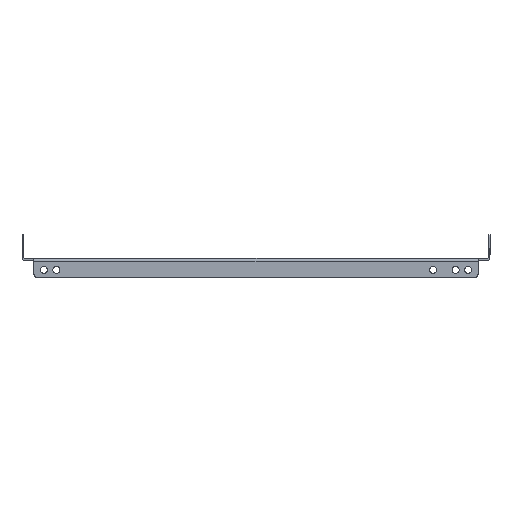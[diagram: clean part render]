
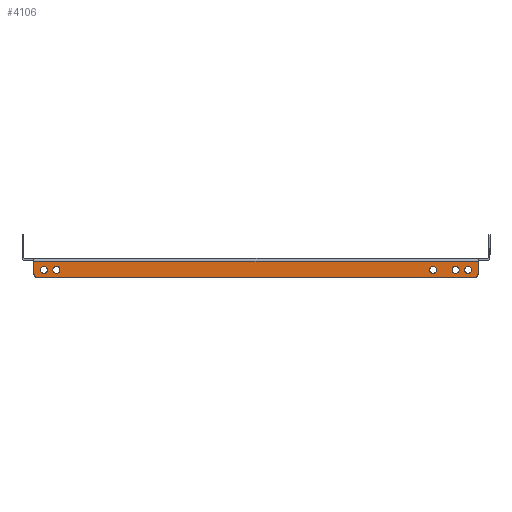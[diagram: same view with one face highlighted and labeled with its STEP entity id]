
A CAD part, left-side view. The second image highlights one B-rep face of the part: STEP entity #4106.
In plain terms, the highlighted planar face has unit normal (-1, 0, 0).
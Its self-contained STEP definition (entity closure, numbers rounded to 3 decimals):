
#5 = EDGE_CURVE ( 'NONE', #2773, #1411, #2415, .T. ) ;
#17 = ORIENTED_EDGE ( 'NONE', *, *, #5, .T. ) ;
#51 = CARTESIAN_POINT ( 'NONE',  ( -150., -200., -6. ) ) ;
#60 = EDGE_CURVE ( 'NONE', #3836, #2238, #2122, .T. ) ;
#101 = AXIS2_PLACEMENT_3D ( 'NONE', #1662, #2715, #1289 ) ;
#121 = FACE_BOUND ( 'NONE', #1444, .T. ) ;
#141 = DIRECTION ( 'NONE',  ( 0., 0., 1. ) ) ;
#290 = AXIS2_PLACEMENT_3D ( 'NONE', #4266, #3266, #141 ) ;
#293 = VERTEX_POINT ( 'NONE', #1516 ) ;
#294 = VERTEX_POINT ( 'NONE', #4250 ) ;
#348 = AXIS2_PLACEMENT_3D ( 'NONE', #3004, #2265, #2650 ) ;
#367 = DIRECTION ( 'NONE',  ( -1., 0., 0. ) ) ;
#369 = AXIS2_PLACEMENT_3D ( 'NONE', #4339, #1942, #3657 ) ;
#388 = EDGE_CURVE ( 'NONE', #1134, #2204, #3179, .T. ) ;
#403 = ORIENTED_EDGE ( 'NONE', *, *, #490, .F. ) ;
#413 = CIRCLE ( 'NONE', #855, 3.5 ) ;
#490 = EDGE_CURVE ( 'NONE', #694, #3167, #2407, .T. ) ;
#502 = FACE_OUTER_BOUND ( 'NONE', #1827, .T. ) ;
#584 = LINE ( 'NONE', #1212, #1025 ) ;
#607 = EDGE_CURVE ( 'NONE', #2238, #3836, #3037, .T. ) ;
#646 = AXIS2_PLACEMENT_3D ( 'NONE', #2390, #2367, #2667 ) ;
#658 = VERTEX_POINT ( 'NONE', #4263 ) ;
#674 = ORIENTED_EDGE ( 'NONE', *, *, #3908, .T. ) ;
#694 = VERTEX_POINT ( 'NONE', #1111 ) ;
#712 = LINE ( 'NONE', #3412, #1079 ) ;
#734 = DIRECTION ( 'NONE',  ( -1., 0., 0. ) ) ;
#834 = PLANE ( 'NONE',  #290 ) ;
#855 = AXIS2_PLACEMENT_3D ( 'NONE', #4347, #4012, #4054 ) ;
#892 = CARTESIAN_POINT ( 'NONE',  ( -150., -177.5, -13. ) ) ;
#935 = VECTOR ( 'NONE', #2398, 1000. ) ;
#958 = CARTESIAN_POINT ( 'NONE',  ( -150., -177.5, -6. ) ) ;
#1008 = VECTOR ( 'NONE', #2051, 1000. ) ;
#1025 = VECTOR ( 'NONE', #1949, 1000. ) ;
#1079 = VECTOR ( 'NONE', #1717, 1000. ) ;
#1111 = CARTESIAN_POINT ( 'NONE',  ( -150., -222.5, -0.6 ) ) ;
#1115 = EDGE_LOOP ( 'NONE', ( #4482, #1900 ) ) ;
#1134 = VERTEX_POINT ( 'NONE', #4368 ) ;
#1165 = EDGE_LOOP ( 'NONE', ( #3909, #1939 ) ) ;
#1190 = EDGE_CURVE ( 'NONE', #694, #658, #584, .T. ) ;
#1212 = CARTESIAN_POINT ( 'NONE',  ( -150., 222.5, -0.6 ) ) ;
#1229 = AXIS2_PLACEMENT_3D ( 'NONE', #3950, #3926, #4239 ) ;
#1247 = EDGE_CURVE ( 'NONE', #294, #293, #413, .T. ) ;
#1289 = DIRECTION ( 'NONE',  ( 0., 0., -1. ) ) ;
#1338 = DIRECTION ( 'NONE',  ( 0., 0., -1. ) ) ;
#1411 = VERTEX_POINT ( 'NONE', #958 ) ;
#1427 = EDGE_CURVE ( 'NONE', #3531, #3167, #2593, .T. ) ;
#1444 = EDGE_LOOP ( 'NONE', ( #17, #674 ) ) ;
#1477 = ORIENTED_EDGE ( 'NONE', *, *, #1427, .T. ) ;
#1481 = AXIS2_PLACEMENT_3D ( 'NONE', #2888, #734, #3501 ) ;
#1490 = FACE_BOUND ( 'NONE', #1165, .T. ) ;
#1509 = CIRCLE ( 'NONE', #3032, 3.5 ) ;
#1516 = CARTESIAN_POINT ( 'NONE',  ( -150., -212.5, -6. ) ) ;
#1563 = DIRECTION ( 'NONE',  ( 0., 0., 1. ) ) ;
#1564 = CARTESIAN_POINT ( 'NONE',  ( -150., 212.5, -13. ) ) ;
#1662 = CARTESIAN_POINT ( 'NONE',  ( -150., -177.5, -9.5 ) ) ;
#1702 = CARTESIAN_POINT ( 'NONE',  ( -150., 219.5, -17. ) ) ;
#1717 = DIRECTION ( 'NONE',  ( 0., 1., 0. ) ) ;
#1735 = AXIS2_PLACEMENT_3D ( 'NONE', #3992, #3646, #4056 ) ;
#1736 = VERTEX_POINT ( 'NONE', #3019 ) ;
#1752 = CIRCLE ( 'NONE', #369, 3.5 ) ;
#1798 = EDGE_CURVE ( 'NONE', #1736, #2830, #3982, .T. ) ;
#1827 = EDGE_LOOP ( 'NONE', ( #1982, #1477, #403, #3554, #4027, #2579 ) ) ;
#1842 = CARTESIAN_POINT ( 'NONE',  ( -150., -200., -9.5 ) ) ;
#1892 = AXIS2_PLACEMENT_3D ( 'NONE', #1842, #2138, #2877 ) ;
#1900 = ORIENTED_EDGE ( 'NONE', *, *, #60, .F. ) ;
#1912 = CARTESIAN_POINT ( 'NONE',  ( -150., -219.5, -17. ) ) ;
#1929 = CARTESIAN_POINT ( 'NONE',  ( -150., 200., -6. ) ) ;
#1939 = ORIENTED_EDGE ( 'NONE', *, *, #1247, .F. ) ;
#1942 = DIRECTION ( 'NONE',  ( -1., 0., 0. ) ) ;
#1949 = DIRECTION ( 'NONE',  ( 0., 1., 0. ) ) ;
#1982 = ORIENTED_EDGE ( 'NONE', *, *, #2585, .F. ) ;
#2051 = DIRECTION ( 'NONE',  ( 0., 0., -1. ) ) ;
#2069 = ORIENTED_EDGE ( 'NONE', *, *, #1798, .F. ) ;
#2122 = CIRCLE ( 'NONE', #2705, 3.5 ) ;
#2138 = DIRECTION ( 'NONE',  ( -1., 0., 0. ) ) ;
#2164 = CARTESIAN_POINT ( 'NONE',  ( -150., -222.5, -14. ) ) ;
#2204 = VERTEX_POINT ( 'NONE', #1702 ) ;
#2238 = VERTEX_POINT ( 'NONE', #51 ) ;
#2254 = FACE_BOUND ( 'NONE', #1115, .T. ) ;
#2265 = DIRECTION ( 'NONE',  ( -1., 0., 0. ) ) ;
#2351 = EDGE_CURVE ( 'NONE', #2830, #1736, #3989, .T. ) ;
#2367 = DIRECTION ( 'NONE',  ( -1., 0., 0. ) ) ;
#2390 = CARTESIAN_POINT ( 'NONE',  ( -150., 200., -9.5 ) ) ;
#2398 = DIRECTION ( 'NONE',  ( 0., 0., 1. ) ) ;
#2407 = LINE ( 'NONE', #3834, #1008 ) ;
#2409 = EDGE_CURVE ( 'NONE', #293, #294, #3169, .T. ) ;
#2415 = CIRCLE ( 'NONE', #101, 3.5 ) ;
#2433 = VERTEX_POINT ( 'NONE', #2610 ) ;
#2447 = EDGE_CURVE ( 'NONE', #3211, #2433, #3173, .T. ) ;
#2508 = DIRECTION ( 'NONE',  ( 1., 0., 0. ) ) ;
#2558 = EDGE_CURVE ( 'NONE', #1134, #658, #4458, .T. ) ;
#2579 = ORIENTED_EDGE ( 'NONE', *, *, #388, .T. ) ;
#2585 = EDGE_CURVE ( 'NONE', #3531, #2204, #712, .T. ) ;
#2593 = CIRCLE ( 'NONE', #1481, 3. ) ;
#2610 = CARTESIAN_POINT ( 'NONE',  ( -150., 212.5, -6. ) ) ;
#2621 = ORIENTED_EDGE ( 'NONE', *, *, #3234, .F. ) ;
#2650 = DIRECTION ( 'NONE',  ( 0., 0., -1. ) ) ;
#2660 = DIRECTION ( 'NONE',  ( -1., 0., 0. ) ) ;
#2667 = DIRECTION ( 'NONE',  ( 0., 0., 1. ) ) ;
#2705 = AXIS2_PLACEMENT_3D ( 'NONE', #3777, #367, #1338 ) ;
#2715 = DIRECTION ( 'NONE',  ( 1., 0., 0. ) ) ;
#2737 = ORIENTED_EDGE ( 'NONE', *, *, #2447, .F. ) ;
#2766 = CARTESIAN_POINT ( 'NONE',  ( -150., 222.5, 0. ) ) ;
#2773 = VERTEX_POINT ( 'NONE', #892 ) ;
#2797 = CARTESIAN_POINT ( 'NONE',  ( -150., -177.5, -9.5 ) ) ;
#2830 = VERTEX_POINT ( 'NONE', #1929 ) ;
#2845 = EDGE_LOOP ( 'NONE', ( #3115, #2069 ) ) ;
#2860 = DIRECTION ( 'NONE',  ( 0., 0., -1. ) ) ;
#2877 = DIRECTION ( 'NONE',  ( 0., 0., -1. ) ) ;
#2880 = FACE_BOUND ( 'NONE', #4242, .T. ) ;
#2888 = CARTESIAN_POINT ( 'NONE',  ( -150., -219.5, -14. ) ) ;
#3004 = CARTESIAN_POINT ( 'NONE',  ( -150., -212.5, -9.5 ) ) ;
#3019 = CARTESIAN_POINT ( 'NONE',  ( -150., 200., -13. ) ) ;
#3032 = AXIS2_PLACEMENT_3D ( 'NONE', #2797, #2508, #2860 ) ;
#3037 = CIRCLE ( 'NONE', #1892, 3.5 ) ;
#3115 = ORIENTED_EDGE ( 'NONE', *, *, #2351, .F. ) ;
#3167 = VERTEX_POINT ( 'NONE', #2164 ) ;
#3169 = CIRCLE ( 'NONE', #348, 3.5 ) ;
#3173 = CIRCLE ( 'NONE', #1735, 3.5 ) ;
#3179 = CIRCLE ( 'NONE', #3474, 3. ) ;
#3211 = VERTEX_POINT ( 'NONE', #1564 ) ;
#3234 = EDGE_CURVE ( 'NONE', #2433, #3211, #1752, .T. ) ;
#3266 = DIRECTION ( 'NONE',  ( -1., 0., 0. ) ) ;
#3300 = CARTESIAN_POINT ( 'NONE',  ( -150., -200., -13. ) ) ;
#3412 = CARTESIAN_POINT ( 'NONE',  ( -150., 222.5, -17. ) ) ;
#3474 = AXIS2_PLACEMENT_3D ( 'NONE', #3656, #2660, #1563 ) ;
#3501 = DIRECTION ( 'NONE',  ( 0., 0., 1. ) ) ;
#3531 = VERTEX_POINT ( 'NONE', #1912 ) ;
#3554 = ORIENTED_EDGE ( 'NONE', *, *, #1190, .T. ) ;
#3646 = DIRECTION ( 'NONE',  ( -1., 0., 0. ) ) ;
#3656 = CARTESIAN_POINT ( 'NONE',  ( -150., 219.5, -14. ) ) ;
#3657 = DIRECTION ( 'NONE',  ( 0., 0., 1. ) ) ;
#3777 = CARTESIAN_POINT ( 'NONE',  ( -150., -200., -9.5 ) ) ;
#3834 = CARTESIAN_POINT ( 'NONE',  ( -150., -222.5, -17. ) ) ;
#3836 = VERTEX_POINT ( 'NONE', #3300 ) ;
#3908 = EDGE_CURVE ( 'NONE', #1411, #2773, #1509, .T. ) ;
#3909 = ORIENTED_EDGE ( 'NONE', *, *, #2409, .F. ) ;
#3926 = DIRECTION ( 'NONE',  ( -1., 0., 0. ) ) ;
#3950 = CARTESIAN_POINT ( 'NONE',  ( -150., 200., -9.5 ) ) ;
#3982 = CIRCLE ( 'NONE', #646, 3.5 ) ;
#3989 = CIRCLE ( 'NONE', #1229, 3.5 ) ;
#3992 = CARTESIAN_POINT ( 'NONE',  ( -150., 212.5, -9.5 ) ) ;
#4012 = DIRECTION ( 'NONE',  ( -1., 0., 0. ) ) ;
#4027 = ORIENTED_EDGE ( 'NONE', *, *, #2558, .F. ) ;
#4054 = DIRECTION ( 'NONE',  ( 0., 0., -1. ) ) ;
#4056 = DIRECTION ( 'NONE',  ( 0., 0., 1. ) ) ;
#4106 = ADVANCED_FACE ( 'NONE', ( #121, #1490, #2254, #4335, #2880, #502 ), #834, .T. ) ;
#4239 = DIRECTION ( 'NONE',  ( 0., 0., 1. ) ) ;
#4242 = EDGE_LOOP ( 'NONE', ( #2621, #2737 ) ) ;
#4250 = CARTESIAN_POINT ( 'NONE',  ( -150., -212.5, -13. ) ) ;
#4263 = CARTESIAN_POINT ( 'NONE',  ( -150., 222.5, -0.6 ) ) ;
#4266 = CARTESIAN_POINT ( 'NONE',  ( -150., 222.5, 0. ) ) ;
#4335 = FACE_BOUND ( 'NONE', #2845, .T. ) ;
#4339 = CARTESIAN_POINT ( 'NONE',  ( -150., 212.5, -9.5 ) ) ;
#4347 = CARTESIAN_POINT ( 'NONE',  ( -150., -212.5, -9.5 ) ) ;
#4368 = CARTESIAN_POINT ( 'NONE',  ( -150., 222.5, -14. ) ) ;
#4458 = LINE ( 'NONE', #2766, #935 ) ;
#4482 = ORIENTED_EDGE ( 'NONE', *, *, #607, .F. ) ;
